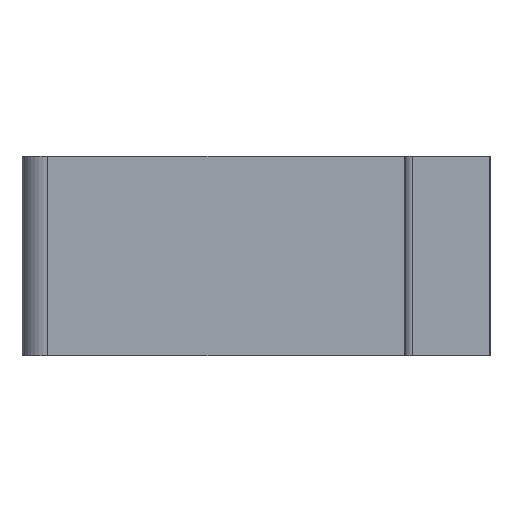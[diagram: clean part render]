
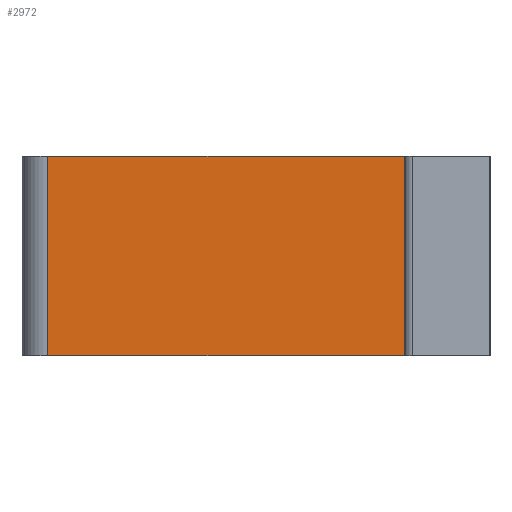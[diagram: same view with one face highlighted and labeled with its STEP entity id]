
A CAD part, left-side view. The second image highlights one B-rep face of the part: STEP entity #2972.
In plain terms, the highlighted planar face has unit normal (-1, 0, 0).
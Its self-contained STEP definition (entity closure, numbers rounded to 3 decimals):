
#153 = PLANE('',#154);
#154 = AXIS2_PLACEMENT_3D('',#155,#156,#157);
#155 = CARTESIAN_POINT('',(0.,14.428,7.));
#156 = DIRECTION('',(0.,0.,1.));
#157 = DIRECTION('',(1.,0.,-0.));
#475 = PLANE('',#476);
#476 = AXIS2_PLACEMENT_3D('',#477,#478,#479);
#477 = CARTESIAN_POINT('',(0.,14.428,-7.));
#478 = DIRECTION('',(0.,0.,1.));
#479 = DIRECTION('',(1.,0.,-0.));
#1391 = PLANE('',#1392);
#1392 = AXIS2_PLACEMENT_3D('',#1393,#1394,#1395);
#1393 = CARTESIAN_POINT('',(-14.7,6.,-7.));
#1394 = DIRECTION('',(0.,1.,0.));
#1395 = DIRECTION('',(-1.,0.,0.));
#2901 = VERTEX_POINT('',#2902);
#2902 = CARTESIAN_POINT('',(-9.,6.,7.));
#2923 = EDGE_CURVE('',#2924,#2901,#2926,.T.);
#2924 = VERTEX_POINT('',#2925);
#2925 = CARTESIAN_POINT('',(-9.,6.,-7.));
#2926 = SURFACE_CURVE('',#2927,(#2931,#2938),.PCURVE_S1.);
#2927 = LINE('',#2928,#2929);
#2928 = CARTESIAN_POINT('',(-9.,6.,-7.));
#2929 = VECTOR('',#2930,1.);
#2930 = DIRECTION('',(0.,0.,1.));
#2931 = PCURVE('',#1391,#2932);
#2932 = DEFINITIONAL_REPRESENTATION('',(#2933),#2937);
#2933 = LINE('',#2934,#2935);
#2934 = CARTESIAN_POINT('',(-5.7,0.));
#2935 = VECTOR('',#2936,1.);
#2936 = DIRECTION('',(0.,1.));
#2937 = ( GEOMETRIC_REPRESENTATION_CONTEXT(2) 
PARAMETRIC_REPRESENTATION_CONTEXT() REPRESENTATION_CONTEXT('2D SPACE',''
  ) );
#2938 = PCURVE('',#2939,#2944);
#2939 = PLANE('',#2940);
#2940 = AXIS2_PLACEMENT_3D('',#2941,#2942,#2943);
#2941 = CARTESIAN_POINT('',(-9.,18.5,-7.));
#2942 = DIRECTION('',(-1.,0.,0.));
#2943 = DIRECTION('',(0.,-1.,0.));
#2944 = DEFINITIONAL_REPRESENTATION('',(#2945),#2949);
#2945 = LINE('',#2946,#2947);
#2946 = CARTESIAN_POINT('',(12.5,0.));
#2947 = VECTOR('',#2948,1.);
#2948 = DIRECTION('',(0.,1.));
#2949 = ( GEOMETRIC_REPRESENTATION_CONTEXT(2) 
PARAMETRIC_REPRESENTATION_CONTEXT() REPRESENTATION_CONTEXT('2D SPACE',''
  ) );
#2972 = ADVANCED_FACE('',(#2973),#2939,.T.);
#2973 = FACE_BOUND('',#2974,.T.);
#2974 = EDGE_LOOP('',(#2975,#2998,#3026,#3047));
#2975 = ORIENTED_EDGE('',*,*,#2976,.T.);
#2976 = EDGE_CURVE('',#2901,#2977,#2979,.T.);
#2977 = VERTEX_POINT('',#2978);
#2978 = CARTESIAN_POINT('',(-9.,31.,7.));
#2979 = SURFACE_CURVE('',#2980,(#2984,#2991),.PCURVE_S1.);
#2980 = LINE('',#2981,#2982);
#2981 = CARTESIAN_POINT('',(-9.,31.,7.));
#2982 = VECTOR('',#2983,1.);
#2983 = DIRECTION('',(0.,1.,0.));
#2984 = PCURVE('',#2939,#2985);
#2985 = DEFINITIONAL_REPRESENTATION('',(#2986),#2990);
#2986 = LINE('',#2987,#2988);
#2987 = CARTESIAN_POINT('',(-12.5,14.));
#2988 = VECTOR('',#2989,1.);
#2989 = DIRECTION('',(-1.,0.));
#2990 = ( GEOMETRIC_REPRESENTATION_CONTEXT(2) 
PARAMETRIC_REPRESENTATION_CONTEXT() REPRESENTATION_CONTEXT('2D SPACE',''
  ) );
#2991 = PCURVE('',#153,#2992);
#2992 = DEFINITIONAL_REPRESENTATION('',(#2993),#2997);
#2993 = LINE('',#2994,#2995);
#2994 = CARTESIAN_POINT('',(-9.,16.572));
#2995 = VECTOR('',#2996,1.);
#2996 = DIRECTION('',(0.,1.));
#2997 = ( GEOMETRIC_REPRESENTATION_CONTEXT(2) 
PARAMETRIC_REPRESENTATION_CONTEXT() REPRESENTATION_CONTEXT('2D SPACE',''
  ) );
#2998 = ORIENTED_EDGE('',*,*,#2999,.F.);
#2999 = EDGE_CURVE('',#3000,#2977,#3002,.T.);
#3000 = VERTEX_POINT('',#3001);
#3001 = CARTESIAN_POINT('',(-9.,31.,-7.));
#3002 = SURFACE_CURVE('',#3003,(#3007,#3014),.PCURVE_S1.);
#3003 = LINE('',#3004,#3005);
#3004 = CARTESIAN_POINT('',(-9.,31.,-7.));
#3005 = VECTOR('',#3006,1.);
#3006 = DIRECTION('',(0.,0.,1.));
#3007 = PCURVE('',#2939,#3008);
#3008 = DEFINITIONAL_REPRESENTATION('',(#3009),#3013);
#3009 = LINE('',#3010,#3011);
#3010 = CARTESIAN_POINT('',(-12.5,0.));
#3011 = VECTOR('',#3012,1.);
#3012 = DIRECTION('',(0.,1.));
#3013 = ( GEOMETRIC_REPRESENTATION_CONTEXT(2) 
PARAMETRIC_REPRESENTATION_CONTEXT() REPRESENTATION_CONTEXT('2D SPACE',''
  ) );
#3014 = PCURVE('',#3015,#3020);
#3015 = CYLINDRICAL_SURFACE('',#3016,1.8);
#3016 = AXIS2_PLACEMENT_3D('',#3017,#3018,#3019);
#3017 = CARTESIAN_POINT('',(-7.2,31.,-7.));
#3018 = DIRECTION('',(0.,0.,1.));
#3019 = DIRECTION('',(1.,0.,-0.));
#3020 = DEFINITIONAL_REPRESENTATION('',(#3021),#3025);
#3021 = LINE('',#3022,#3023);
#3022 = CARTESIAN_POINT('',(3.142,0.));
#3023 = VECTOR('',#3024,1.);
#3024 = DIRECTION('',(0.,1.));
#3025 = ( GEOMETRIC_REPRESENTATION_CONTEXT(2) 
PARAMETRIC_REPRESENTATION_CONTEXT() REPRESENTATION_CONTEXT('2D SPACE',''
  ) );
#3026 = ORIENTED_EDGE('',*,*,#3027,.T.);
#3027 = EDGE_CURVE('',#3000,#2924,#3028,.T.);
#3028 = SURFACE_CURVE('',#3029,(#3033,#3040),.PCURVE_S1.);
#3029 = LINE('',#3030,#3031);
#3030 = CARTESIAN_POINT('',(-9.,31.,-7.));
#3031 = VECTOR('',#3032,1.);
#3032 = DIRECTION('',(0.,-1.,0.));
#3033 = PCURVE('',#2939,#3034);
#3034 = DEFINITIONAL_REPRESENTATION('',(#3035),#3039);
#3035 = LINE('',#3036,#3037);
#3036 = CARTESIAN_POINT('',(-12.5,0.));
#3037 = VECTOR('',#3038,1.);
#3038 = DIRECTION('',(1.,0.));
#3039 = ( GEOMETRIC_REPRESENTATION_CONTEXT(2) 
PARAMETRIC_REPRESENTATION_CONTEXT() REPRESENTATION_CONTEXT('2D SPACE',''
  ) );
#3040 = PCURVE('',#475,#3041);
#3041 = DEFINITIONAL_REPRESENTATION('',(#3042),#3046);
#3042 = LINE('',#3043,#3044);
#3043 = CARTESIAN_POINT('',(-9.,16.572));
#3044 = VECTOR('',#3045,1.);
#3045 = DIRECTION('',(0.,-1.));
#3046 = ( GEOMETRIC_REPRESENTATION_CONTEXT(2) 
PARAMETRIC_REPRESENTATION_CONTEXT() REPRESENTATION_CONTEXT('2D SPACE',''
  ) );
#3047 = ORIENTED_EDGE('',*,*,#2923,.T.);
